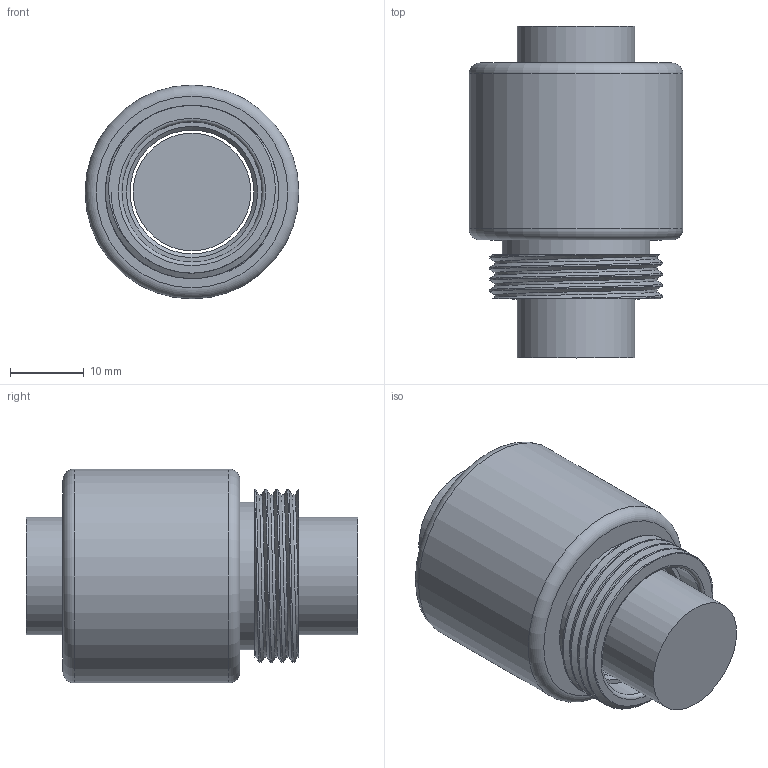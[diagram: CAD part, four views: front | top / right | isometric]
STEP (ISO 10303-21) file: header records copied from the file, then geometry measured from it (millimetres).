
FILE_DESCRIPTION(/* description */ (''),/* implementation_level */ '2;1');
FILE_NAME(/* name */ '1604.prt.step',/* time_stamp */ '2008-12-05T09:41:25+08:00',/* author */ (''),/* organization */ (''),/* preprocessor_version */ 'ST-DEVELOPER v11',/* originating_system */ 'SIEMENS UGS NX 6.0',/* authorisation */ '');
FILE_SCHEMA (('AUTOMOTIVE_DESIGN { 1 0 10303 214 1 1 1 1 }'));
Length unit declared in the file: millimetre
Products named in the file (1): 1604
Bounding box: 29 x 45 x 29 mm (x, y, z)
Volume: 20381.6 mm3; surface area: 8252.2 mm2
Topology: 2 solids, 2 shells, 27 faces, 51 edges, 33 vertices
Faces by surface type: plane 9, cylinder 8, bspline 4, torus 4, cone 2
Full cylindrical faces by diameter (mm): 15.95 x1, 16.8 x1, 19 x2, 20 x1, 29 x1
Entity records: 1693 total; most frequent: CARTESIAN_POINT 1195, DIRECTION 93, ORIENTED_EDGE 72, EDGE_LOOP 46, AXIS2_PLACEMENT_3D 46, FACE_BOUND 37, EDGE_CURVE 36, VERTEX_POINT 30
